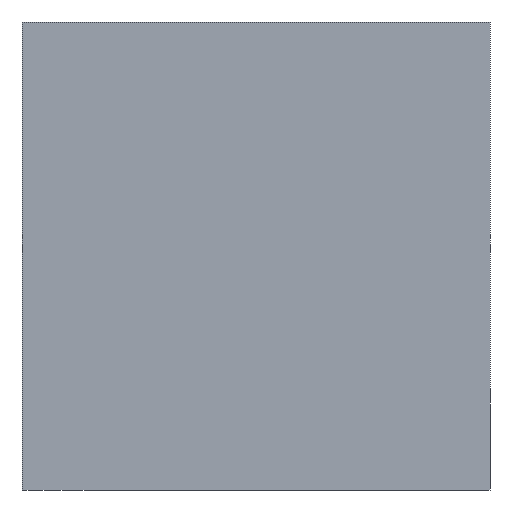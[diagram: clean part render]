
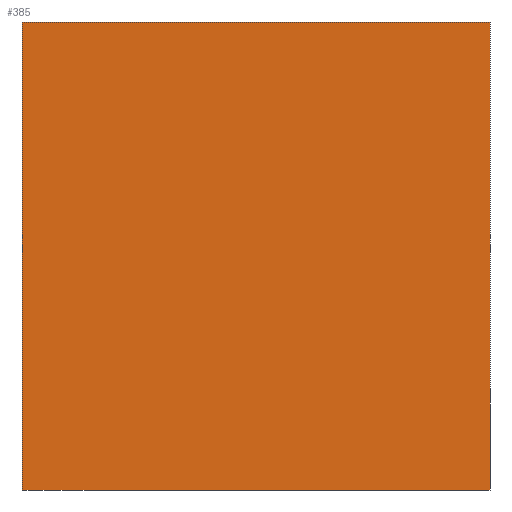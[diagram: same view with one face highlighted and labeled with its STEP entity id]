
A CAD part, front view. The second image highlights one B-rep face of the part: STEP entity #385.
In plain terms, the highlighted planar face has unit normal (0, -1, 0).
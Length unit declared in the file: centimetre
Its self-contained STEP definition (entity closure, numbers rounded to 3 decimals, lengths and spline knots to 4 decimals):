
#44 = VERTEX_POINT ( 'NONE', #280 ) ;
#46 = ORIENTED_EDGE ( 'NONE', *, *, #745, .T. ) ;
#77 = DIRECTION ( 'NONE',  ( 0., 0., 1. ) ) ;
#95 = VECTOR ( 'NONE', #1064, 100. ) ;
#162 = CARTESIAN_POINT ( 'NONE',  ( 1000., 0., 1000. ) ) ;
#181 = CARTESIAN_POINT ( 'NONE',  ( 0., 0., 1000. ) ) ;
#189 = EDGE_CURVE ( 'NONE', #44, #612, #308, .T. ) ;
#198 = CARTESIAN_POINT ( 'NONE',  ( 1000., 0., 0. ) ) ;
#211 = VECTOR ( 'NONE', #389, 100. ) ;
#218 = LINE ( 'NONE', #780, #211 ) ;
#252 = LINE ( 'NONE', #425, #95 ) ;
#280 = CARTESIAN_POINT ( 'NONE',  ( 0., 0., 1000. ) ) ;
#298 = AXIS2_PLACEMENT_3D ( 'NONE', #831, #1012, #77 ) ;
#308 = LINE ( 'NONE', #1178, #750 ) ;
#352 = EDGE_CURVE ( 'NONE', #44, #577, #555, .T. ) ;
#359 = PLANE ( 'NONE',  #298 ) ;
#360 = DIRECTION ( 'NONE',  ( 0., 0., -1. ) ) ;
#385 = ADVANCED_FACE ( 'NONE', ( #739 ), #359, .F. ) ;
#389 = DIRECTION ( 'NONE',  ( 0., 0., -1. ) ) ;
#425 = CARTESIAN_POINT ( 'NONE',  ( 0., 0., 0. ) ) ;
#479 = EDGE_LOOP ( 'NONE', ( #46, #1015, #705, #675 ) ) ;
#535 = CARTESIAN_POINT ( 'NONE',  ( 0., 0., 0. ) ) ;
#555 = LINE ( 'NONE', #181, #1112 ) ;
#577 = VERTEX_POINT ( 'NONE', #162 ) ;
#612 = VERTEX_POINT ( 'NONE', #535 ) ;
#675 = ORIENTED_EDGE ( 'NONE', *, *, #189, .T. ) ;
#705 = ORIENTED_EDGE ( 'NONE', *, *, #352, .F. ) ;
#739 = FACE_OUTER_BOUND ( 'NONE', #479, .T. ) ;
#745 = EDGE_CURVE ( 'NONE', #612, #857, #252, .T. ) ;
#750 = VECTOR ( 'NONE', #360, 100. ) ;
#780 = CARTESIAN_POINT ( 'NONE',  ( 1000., 0., 1000. ) ) ;
#831 = CARTESIAN_POINT ( 'NONE',  ( 0., 0., 1000. ) ) ;
#857 = VERTEX_POINT ( 'NONE', #198 ) ;
#927 = DIRECTION ( 'NONE',  ( 1., 0., 0. ) ) ;
#976 = EDGE_CURVE ( 'NONE', #577, #857, #218, .T. ) ;
#1012 = DIRECTION ( 'NONE',  ( 0., 1., 0. ) ) ;
#1015 = ORIENTED_EDGE ( 'NONE', *, *, #976, .F. ) ;
#1064 = DIRECTION ( 'NONE',  ( 1., 0., 0. ) ) ;
#1112 = VECTOR ( 'NONE', #927, 100. ) ;
#1178 = CARTESIAN_POINT ( 'NONE',  ( 0., 0., 1000. ) ) ;
